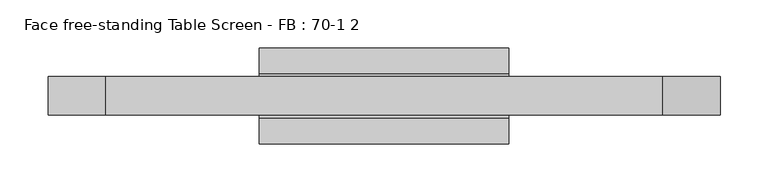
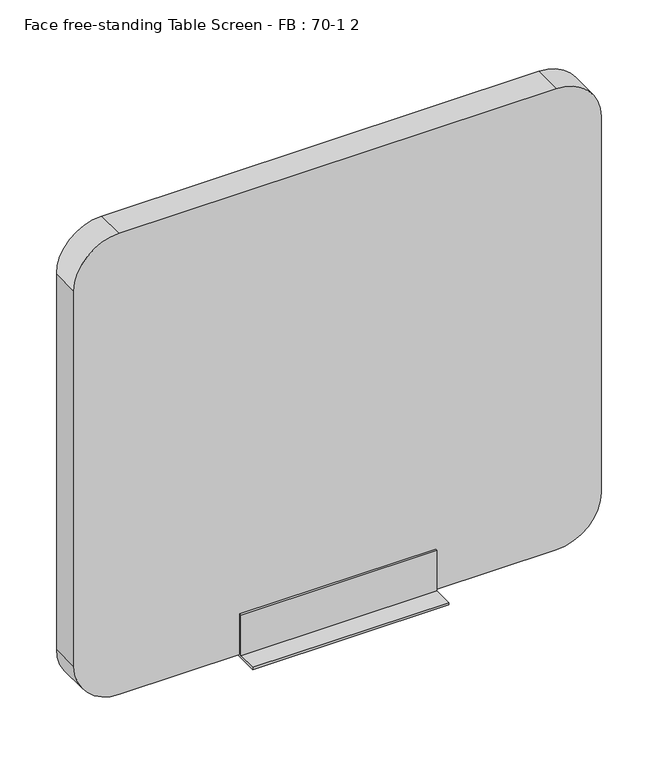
"""IFC4 building model written with IfcOpenShell, lengths in millimetres: furniture geometry, Face free-standing Table Screen - FB : 70-1 2."""

from ifc_helpers import new_model, si_unit, point, frame, frame_2d, origin, place, context, project, spatial, polyline, circle_curve, trimmed, segment, composite_curve, outline, extrude, source, transform, mapped, element, save


def face_free_standing_table_screen_fb_70_1_2_cb3a96f7(model_context):
    return source(origin(), model_context, "Body", "SweptSolid", [
        extrude(outline(polyline([(-50.0, 3.0), (-22.999995, 3.0), (-23.0, 60.0), (-20.0, 60.0), (-20.0, 3.0), (20.0, 3.0), (20.0, 60.0), (23.0, 60.0), (22.999995, 3.0), (50.0, 3.0), (50.0, 0.0), (-50.0, 0.0), (-50.0, 3.0)])), frame((-130.0, 0.0, 0.0), z_axis=(1.0, 0.0, 0.0), x_axis=(0.0, 1.0, 0.0)), (0.0, 0.0, 1.0), 260.0),
        extrude(outline(composite_curve([segment(polyline([(650.0, 290.0), (650.0, -290.0)]), True, "CONTINUOUS"), segment(trimmed(circle_curve(frame_2d((590.0, -290.0)), 60.0), [point((650.0, -290.0))], [point((590.0, -350.0))], False, "CARTESIAN"), True, "CONTINUOUS"), segment(polyline([(590.0, -350.0), (63.0, -350.0)]), True, "CONTINUOUS"), segment(trimmed(circle_curve(frame_2d((63.0, -290.0)), 60.0), [point((63.0, -350.0))], [point((3.0, -290.0))], False, "CARTESIAN"), True, "CONTINUOUS"), segment(polyline([(3.0, -290.0), (3.0, 290.0)]), True, "CONTINUOUS"), segment(trimmed(circle_curve(frame_2d((63.0, 290.0)), 60.0), [point((3.0, 290.0))], [point((63.0, 350.0))], False, "CARTESIAN"), True, "CONTINUOUS"), segment(polyline([(63.0, 350.0), (590.0, 350.0)]), True, "CONTINUOUS"), segment(trimmed(circle_curve(frame_2d((590.0, 290.0)), 60.0), [point((590.0, 350.0))], [point((650.0, 290.0))], False, "CARTESIAN"), True, "CONTINUOUS")], self_intersect=False)), frame((0.0, -20.0, 0.0), z_axis=(0.0, 1.0, 0.0), x_axis=(0.0, 0.0, 1.0)), (0.0, 0.0, 1.0), 40.0),
    ])


if __name__ == "__main__":
    model = new_model("IFC4")
    model_context = context("Model", 3, world=origin())
    ifc_project = project(units=[si_unit("LENGTHUNIT", "METRE", prefix="MILLI")], contexts=[model_context])
    site = spatial("IfcSite", under=ifc_project)
    building = spatial("IfcBuilding", under=site)
    placement = place(None, origin())
    face_free_standing_table_screen_fb_70_1_2_shape = face_free_standing_table_screen_fb_70_1_2_cb3a96f7(model_context)
    element("IfcFurniture", 1, ObjectType="Face free-standing Table Screen - FB : 70-1 2", at=placement, inside=building, context=model_context, shape_type="MappedRepresentation", body=[
        mapped(face_free_standing_table_screen_fb_70_1_2_shape, transform((0.0, 0.0, 0.0), x_axis=(1.0, 0.0, 0.0), y_axis=(0.0, 1.0, 0.0), z_axis=(0.0, 0.0, 1.0))),
    ])
    save(model, "model.ifc")
